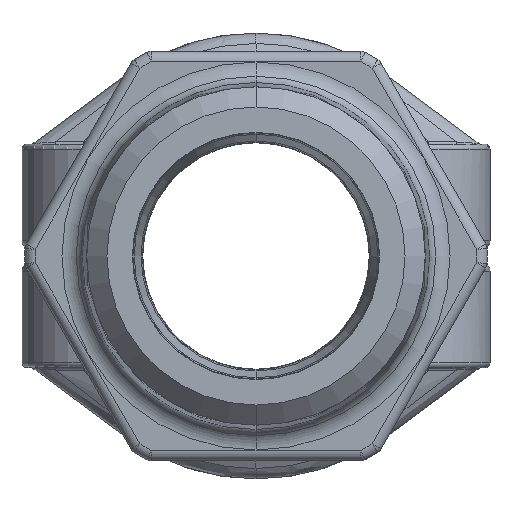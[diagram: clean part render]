
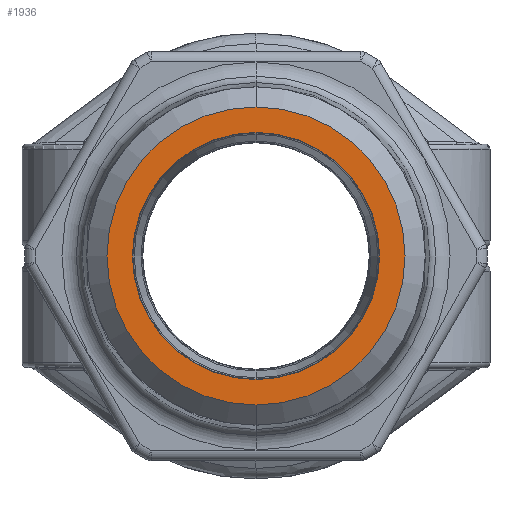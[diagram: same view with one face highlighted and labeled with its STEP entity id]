
A CAD part, left-side view. The second image highlights one B-rep face of the part: STEP entity #1936.
In plain terms, the highlighted planar face has unit normal (-1, 0, 0).
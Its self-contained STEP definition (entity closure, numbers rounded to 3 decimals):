
#39=CARTESIAN_POINT('',(-60.411,0.,0.));
#40=DIRECTION('',(1.,0.,0.));
#41=DIRECTION('',(0.,0.,1.));
#42=AXIS2_PLACEMENT_3D('',#39,#40,#41);
#47=CARTESIAN_POINT('',(-60.411,0.,0.));
#48=DIRECTION('',(1.,0.,0.));
#49=DIRECTION('',(0.,0.,-1.));
#50=AXIS2_PLACEMENT_3D('',#47,#48,#49);
#55=CARTESIAN_POINT('',(-60.411,0.,0.));
#56=DIRECTION('',(-1.,0.,0.));
#57=DIRECTION('',(0.,0.,1.));
#58=AXIS2_PLACEMENT_3D('',#55,#56,#57);
#63=CARTESIAN_POINT('',(-60.411,0.,0.));
#64=DIRECTION('',(-1.,0.,0.));
#65=DIRECTION('',(0.,0.,-1.));
#66=AXIS2_PLACEMENT_3D('',#63,#64,#65);
#1677=CARTESIAN_POINT('',(-60.411,0.,-14.653));
#1678=CARTESIAN_POINT('',(-60.411,0.,14.653));
#1679=VERTEX_POINT('',#1677);
#1680=VERTEX_POINT('',#1678);
#1681=CARTESIAN_POINT('',(-60.411,0.,12.143));
#1682=CARTESIAN_POINT('',(-60.411,0.,-12.143));
#1683=VERTEX_POINT('',#1681);
#1684=VERTEX_POINT('',#1682);
#1920=CARTESIAN_POINT('',(-60.411,14.673,0.));
#1921=DIRECTION('',(1.,0.,0.));
#1922=DIRECTION('',(0.,0.,-1.));
#1923=AXIS2_PLACEMENT_3D('',#1920,#1921,#1922);
#1924=PLANE('',#1923);
#1926=ORIENTED_EDGE('',*,*,#1925,.T.);
#1927=ORIENTED_EDGE('',*,*,#1910,.T.);
#1928=EDGE_LOOP('',(#1926,#1927));
#1929=FACE_OUTER_BOUND('',#1928,.F.);
#1931=ORIENTED_EDGE('',*,*,#1930,.T.);
#1933=ORIENTED_EDGE('',*,*,#1932,.T.);
#1934=EDGE_LOOP('',(#1931,#1933));
#1935=FACE_BOUND('',#1934,.F.);
#43=CIRCLE('',#42,14.653);
#51=CIRCLE('',#50,14.653);
#59=CIRCLE('',#58,12.143);
#67=CIRCLE('',#66,12.143);
#1910=EDGE_CURVE('',#1679,#1680,#51,.T.);
#1925=EDGE_CURVE('',#1680,#1679,#43,.T.);
#1930=EDGE_CURVE('',#1683,#1684,#59,.T.);
#1932=EDGE_CURVE('',#1684,#1683,#67,.T.);
#1936=ADVANCED_FACE('',(#1929,#1935),#1924,.F.);
